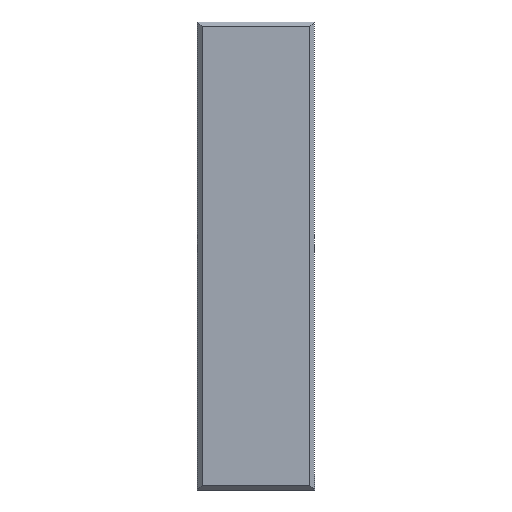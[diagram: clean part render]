
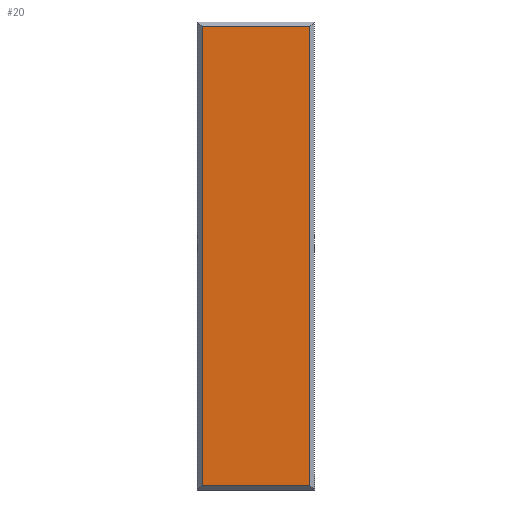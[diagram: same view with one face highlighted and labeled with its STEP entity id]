
A CAD part, front view. The second image highlights one B-rep face of the part: STEP entity #20.
In plain terms, the highlighted planar face has unit normal (0, -1, 0).
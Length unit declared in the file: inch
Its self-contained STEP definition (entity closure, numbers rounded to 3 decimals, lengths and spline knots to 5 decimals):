
#20=ADVANCED_FACE('',(#30),#142,.T.);
#30=FACE_OUTER_BOUND('',#40,.T.);
#40=EDGE_LOOP('',(#68,#69,#70,#71));
#68=ORIENTED_EDGE('',*,*,#84,.F.);
#69=ORIENTED_EDGE('',*,*,#95,.F.);
#70=ORIENTED_EDGE('',*,*,#91,.F.);
#71=ORIENTED_EDGE('',*,*,#88,.F.);
#84=EDGE_CURVE('',#124,#125,#104,.T.);
#88=EDGE_CURVE('',#125,#128,#108,.T.);
#91=EDGE_CURVE('',#128,#130,#111,.T.);
#95=EDGE_CURVE('',#130,#124,#115,.T.);
#104=B_SPLINE_CURVE_WITH_KNOTS('',1,(#285,#286),.UNSPECIFIED.,.F.,.F.,(2,
2),(0.,23.5),.UNSPECIFIED.);
#108=B_SPLINE_CURVE_WITH_KNOTS('',1,(#293,#294),.UNSPECIFIED.,.F.,.F.,(2,
2),(0.,5.5),.UNSPECIFIED.);
#111=B_SPLINE_CURVE_WITH_KNOTS('',1,(#299,#300),.UNSPECIFIED.,.F.,.F.,(2,
2),(0.,23.5),.UNSPECIFIED.);
#115=B_SPLINE_CURVE_WITH_KNOTS('',1,(#307,#308),.UNSPECIFIED.,.F.,.F.,(2,
2),(0.,5.5),.UNSPECIFIED.);
#124=VERTEX_POINT('',#273);
#125=VERTEX_POINT('',#274);
#128=VERTEX_POINT('',#277);
#130=VERTEX_POINT('',#279);
#142=PLANE('',#243);
#243=AXIS2_PLACEMENT_3D('',#269,#256,$);
#256=DIRECTION('',(0.,-1.,0.));
#269=CARTESIAN_POINT('',(-3.30472,-0.5,14.10472));
#273=CARTESIAN_POINT('',(-2.75,-0.5,-11.75));
#274=CARTESIAN_POINT('',(-2.75,-0.5,11.75));
#277=CARTESIAN_POINT('',(2.75,-0.5,11.75));
#279=CARTESIAN_POINT('',(2.75,-0.5,-11.75));
#285=CARTESIAN_POINT('',(-2.75,-0.5,-11.75));
#286=CARTESIAN_POINT('',(-2.75,-0.5,11.75));
#293=CARTESIAN_POINT('',(-2.75,-0.5,11.75));
#294=CARTESIAN_POINT('',(2.75,-0.5,11.75));
#299=CARTESIAN_POINT('',(2.75,-0.5,11.75));
#300=CARTESIAN_POINT('',(2.75,-0.5,-11.75));
#307=CARTESIAN_POINT('',(2.75,-0.5,-11.75));
#308=CARTESIAN_POINT('',(-2.75,-0.5,-11.75));
